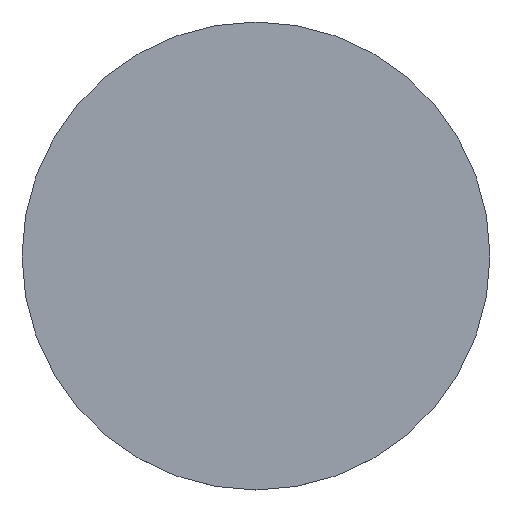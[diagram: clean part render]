
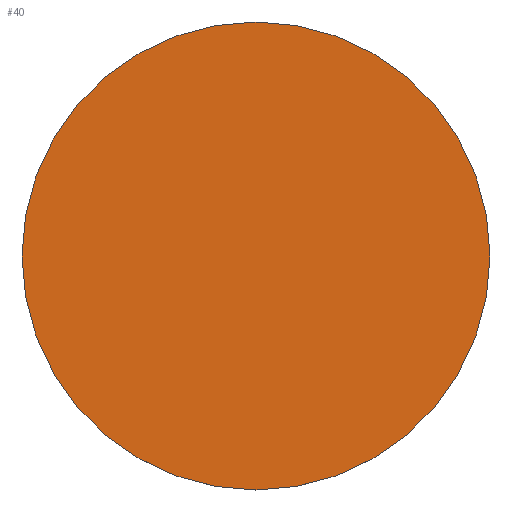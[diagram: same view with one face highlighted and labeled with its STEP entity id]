
A CAD part, top view. The second image highlights one B-rep face of the part: STEP entity #40.
In plain terms, the highlighted planar face has unit normal (0, 0, 1).
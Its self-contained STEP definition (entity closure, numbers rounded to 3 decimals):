
#15=PLANE('',#59);
#18=FACE_OUTER_BOUND('',#21,.T.);
#21=EDGE_LOOP('',(#36));
#25=CIRCLE('',#57,2.1);
#27=VERTEX_POINT('',#76);
#29=EDGE_CURVE('',#27,#27,#25,.T.);
#36=ORIENTED_EDGE('',*,*,#29,.T.);
#40=ADVANCED_FACE('',(#18),#15,.T.);
#57=AXIS2_PLACEMENT_3D('',#77,#65,#66);
#59=AXIS2_PLACEMENT_3D('',#81,#70,#71);
#65=DIRECTION('center_axis',(0.,0.,1.));
#66=DIRECTION('ref_axis',(1.,0.,0.));
#70=DIRECTION('center_axis',(0.,0.,1.));
#71=DIRECTION('ref_axis',(1.,0.,0.));
#76=CARTESIAN_POINT('',(-2.1,2.,-3.5));
#77=CARTESIAN_POINT('Origin',(0.,2.,-3.5));
#81=CARTESIAN_POINT('Origin',(0.,2.,-3.5));
